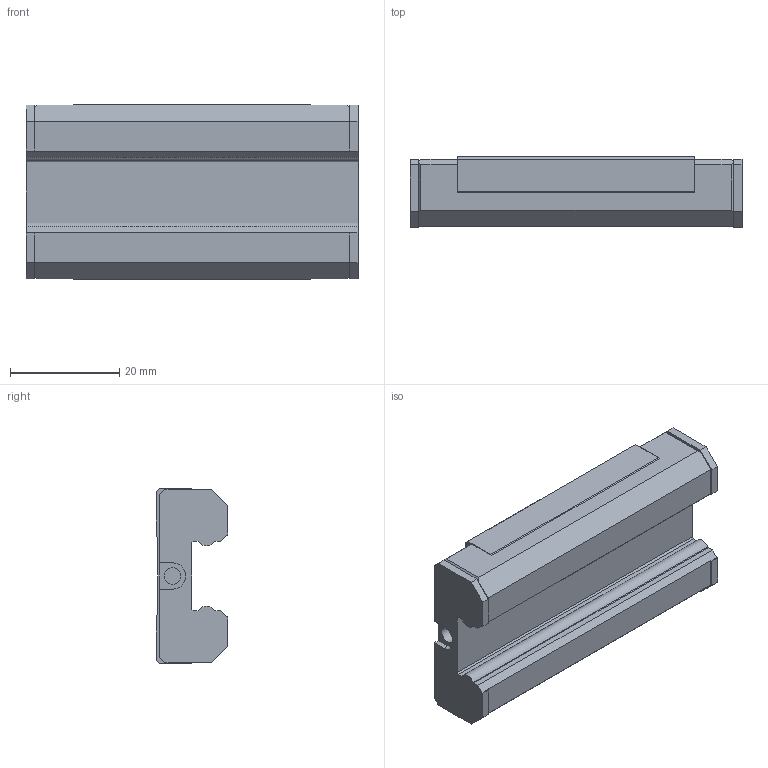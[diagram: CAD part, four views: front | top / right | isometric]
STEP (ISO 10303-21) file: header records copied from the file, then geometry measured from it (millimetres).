
FILE_DESCRIPTION(/* description */ ('STEP AP214'),/* implementation_level */ '2;1');
FILE_NAME(/* name */ 'SRS15NUU(GK) BLOCK(1)',/* time_stamp */ '2023-06-01T09:52:11+02:00',/* author */ ('License CC BY-ND 4.0'),/* organization */ ('CADENAS'),/* preprocessor_version */ 'ST-DEVELOPER v19.3',/* originating_system */ 'PARTsolutions',/* authorisation */ ' ');
FILE_SCHEMA (('AUTOMOTIVE_DESIGN {1 0 10303 214 3 1 1}'));
Length unit declared in the file: millimetre
Products named in the file (2): SRS15NUU(GK) BLOCK(1); SRS15NUU1S
Assembly tree (1 placements, depth 2):
  SRS15NUU(GK) BLOCK(1)
    SRS15NUU1S
Bounding box: 60.8 x 13.1 x 32 mm (x, y, z)
Volume: 18920.3 mm3; surface area: 6849.9 mm2
Topology: 1 solids, 1 shells, 102 faces, 274 edges, 176 vertices
Faces by surface type: plane 78, cylinder 16, cone 8
Full cylindrical faces by diameter (mm): 2.459 x4, 3 x2
Entity records: 3057 total; most frequent: CARTESIAN_POINT 528, ORIENTED_EDGE 504, DIRECTION 496, EDGE_CURVE 252, LINE 216, VECTOR 216, VERTEX_POINT 172, AXIS2_PLACEMENT_3D 140
